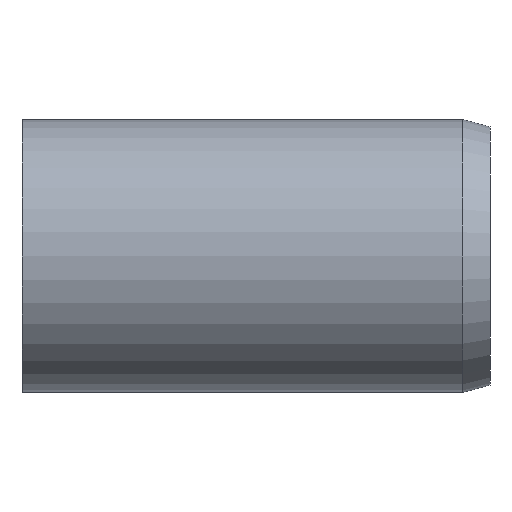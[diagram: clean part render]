
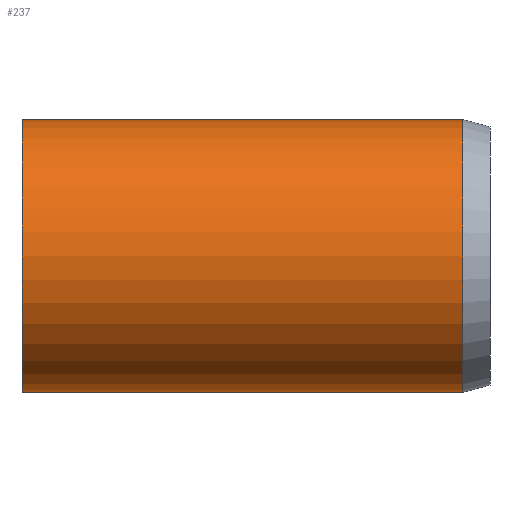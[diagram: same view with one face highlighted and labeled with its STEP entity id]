
A CAD part, left-side view. The second image highlights one B-rep face of the part: STEP entity #237.
In plain terms, the highlighted cylindrical face has radius 3.5 mm (diameter 7 mm), a partial arc.
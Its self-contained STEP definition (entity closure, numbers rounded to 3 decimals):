
#1 = ORIENTED_EDGE ( 'NONE', *, *, #301, .F. ) ;
#13 = CIRCLE ( 'NONE', #263, 3.5 ) ;
#39 = AXIS2_PLACEMENT_3D ( 'NONE', #114, #292, #151 ) ;
#42 = VERTEX_POINT ( 'NONE', #223 ) ;
#49 = EDGE_CURVE ( 'NONE', #175, #147, #368, .T. ) ;
#53 = DIRECTION ( 'NONE',  ( 0., -1., 0. ) ) ;
#54 = CYLINDRICAL_SURFACE ( 'NONE', #39, 3.5 ) ;
#70 = ORIENTED_EDGE ( 'NONE', *, *, #49, .F. ) ;
#85 = CARTESIAN_POINT ( 'NONE',  ( 0., 0.7, 0. ) ) ;
#96 = CIRCLE ( 'NONE', #464, 3.5 ) ;
#107 = VERTEX_POINT ( 'NONE', #416 ) ;
#114 = CARTESIAN_POINT ( 'NONE',  ( 0., 0., 0. ) ) ;
#136 = VECTOR ( 'NONE', #399, 1000. ) ;
#146 = CARTESIAN_POINT ( 'NONE',  ( 0., 0., -3.5 ) ) ;
#147 = VERTEX_POINT ( 'NONE', #420 ) ;
#151 = DIRECTION ( 'NONE',  ( 0., 0., -1. ) ) ;
#175 = VERTEX_POINT ( 'NONE', #358 ) ;
#180 = DIRECTION ( 'NONE',  ( 0., 0., -1. ) ) ;
#182 = LINE ( 'NONE', #146, #136 ) ;
#187 = CARTESIAN_POINT ( 'NONE',  ( 0., 0., 3.5 ) ) ;
#223 = CARTESIAN_POINT ( 'NONE',  ( 0., 12., -3.5 ) ) ;
#232 = EDGE_CURVE ( 'NONE', #42, #107, #182, .T. ) ;
#237 = ADVANCED_FACE ( 'NONE', ( #436 ), #54, .T. ) ;
#252 = ORIENTED_EDGE ( 'NONE', *, *, #232, .T. ) ;
#263 = AXIS2_PLACEMENT_3D ( 'NONE', #346, #414, #450 ) ;
#292 = DIRECTION ( 'NONE',  ( 0., -1., 0. ) ) ;
#301 = EDGE_CURVE ( 'NONE', #147, #107, #96, .T. ) ;
#325 = VECTOR ( 'NONE', #53, 1000. ) ;
#346 = CARTESIAN_POINT ( 'NONE',  ( 0., 12., 0. ) ) ;
#358 = CARTESIAN_POINT ( 'NONE',  ( 0., 12., 3.5 ) ) ;
#363 = DIRECTION ( 'NONE',  ( 0., -1., 0. ) ) ;
#364 = EDGE_CURVE ( 'NONE', #175, #42, #13, .T. ) ;
#368 = LINE ( 'NONE', #187, #325 ) ;
#395 = EDGE_LOOP ( 'NONE', ( #70, #402, #252, #1 ) ) ;
#399 = DIRECTION ( 'NONE',  ( 0., -1., 0. ) ) ;
#402 = ORIENTED_EDGE ( 'NONE', *, *, #364, .T. ) ;
#414 = DIRECTION ( 'NONE',  ( 0., -1., 0. ) ) ;
#416 = CARTESIAN_POINT ( 'NONE',  ( 0., 0.7, -3.5 ) ) ;
#420 = CARTESIAN_POINT ( 'NONE',  ( 0., 0.7, 3.5 ) ) ;
#436 = FACE_OUTER_BOUND ( 'NONE', #395, .T. ) ;
#450 = DIRECTION ( 'NONE',  ( 0., 0., -1. ) ) ;
#464 = AXIS2_PLACEMENT_3D ( 'NONE', #85, #363, #180 ) ;
